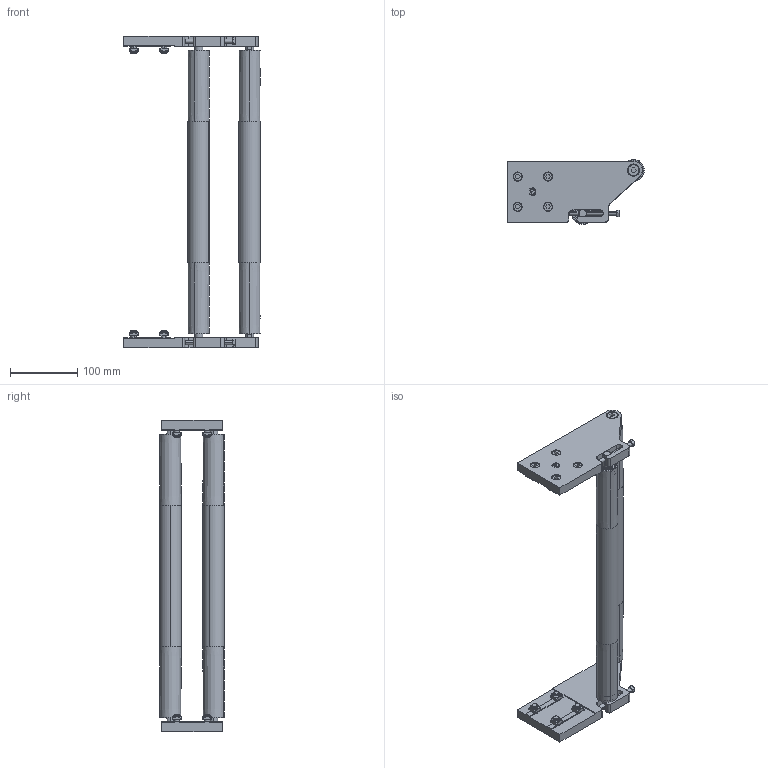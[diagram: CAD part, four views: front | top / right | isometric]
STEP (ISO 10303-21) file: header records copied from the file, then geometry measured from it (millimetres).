
FILE_DESCRIPTION (( 'STEP AP203' ), '1' );
FILE_NAME ('084.095.KP.400.STEP', '2019-07-30T07:55:17', ( '' ), ( '' ), 'SwSTEP 2.0', 'SolidWorks 2018', '' );
FILE_SCHEMA (( 'CONFIG_CONTROL_DESIGN' ));
Length unit declared in the file: millimetre
Products named in the file (12): VITI TSEI UNI 5933_M8x30 UNI 5933; 084.827.016; 084.802.036; 084.301.000 VITI ALUSIC_084.301.003; 084.827.017; 084.302.000 DADI ALUSIC 13x13-1_084.302.004; Circlip DIN 471 - 12 x 1_Circlip DIN 471 - 12 x 1; 456.015.101_456.015.101 SX; 084.827.018; 456.015.101_456.015.101 DX; 084.095.KP.400; VITI TE UNI 5739_M6x70 UNI 5739
Assembly tree (34 placements, depth 2):
  084.095.KP.400
    084.827.018
    084.827.016  x2
    456.015.101_456.015.101 SX
    456.015.101_456.015.101 DX
    084.827.017
    Circlip DIN 471 - 12 x 1_Circlip DIN 471 - 12 x 1  x4
    084.802.036  x4
    084.301.000 VITI ALUSIC_084.301.003  x8
    084.302.000 DADI ALUSIC 13x13-1_084.302.004  x8
    VITI TE UNI 5739_M6x70 UNI 5739  x2
    VITI TSEI UNI 5933_M8x30 UNI 5933  x2
Bounding box: 203 x 96.04 x 462 mm (x, y, z)
Volume: 822223.7 mm3; surface area: 304351.2 mm2
Topology: 38 solids, 42 shells, 1000 faces, 2438 edges, 1562 vertices
Faces by surface type: plane 347, cylinder 334, torus 136, bspline 99, cone 84
Entity records: 16898 total; most frequent: CARTESIAN_POINT 4154, ORIENTED_EDGE 2304, DIRECTION 2178, EDGE_CURVE 1152, AXIS2_PLACEMENT_3D 814, VERTEX_POINT 748, VECTOR 550, LINE 550
